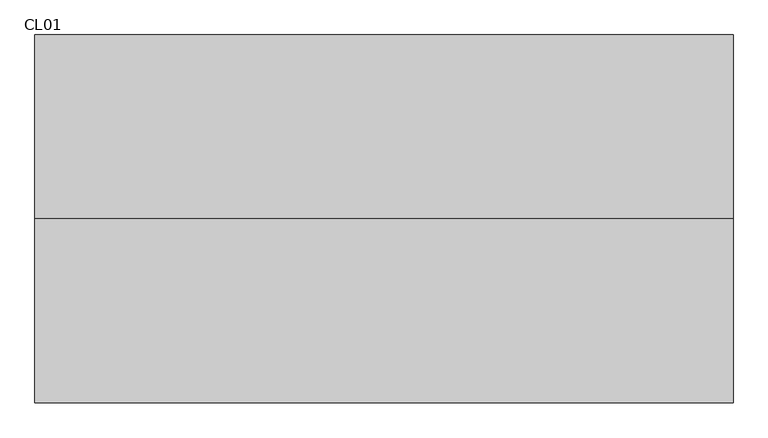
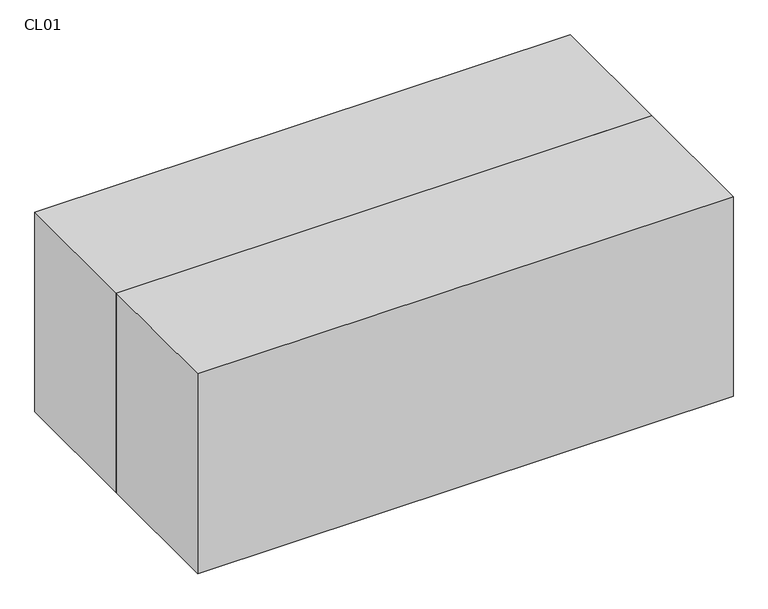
"""IFC4 building model written with IfcOpenShell, lengths in millimetres: proxy geometry, ARC_MDL_ME_Climatitzador 2P Mx1 r22 : CL01."""

import ifcopenshell
import ifcopenshell.guid

model = None  # the IFC model being written
_history = None  # IfcOwnerHistory: only IFC2X3 demands one
_inside = {}  # id of a spatial element -> (the spatial element, [elements in it])
_under = {}  # id of a project, library or spatial element -> (it, [spatial elements below it])
_declared = {}  # id of a project -> (the project, [libraries it declares])
_typed = {}  # id of a type object -> (the type object, [elements of that type])
_made_of = {}  # id of a material, layer set ... -> (it, [elements and type objects made of it])


def new_model(schema):
    """Start an empty IFC model of exactly this schema.

    Asked for "IFC4X3", IfcOpenShell would pick the latest addendum, in which some entities
    have other attributes; the version numbers below select the first issue.
    IFC2X3 requires an IfcOwnerHistory on every rooted entity: one is made here for all.
    """
    global model, _history
    if schema == "IFC4X3":
        model = ifcopenshell.file(schema_version=(4, 3, 0, 0))
    else:
        model = ifcopenshell.file(schema=schema)
    _inside.clear()
    _under.clear()
    _declared.clear()
    _typed.clear()
    _made_of.clear()
    _history = None
    if model.schema == "IFC2X3":
        org = make("IfcOrganization", Name="unknown")
        user = make(
            "IfcPersonAndOrganization",
            ThePerson=make("IfcPerson", FamilyName="unknown"),
            TheOrganization=org,
        )
        app = make(
            "IfcApplication",
            ApplicationDeveloper=org,
            Version="unknown",
            ApplicationFullName="unknown",
            ApplicationIdentifier="unknown",
        )
        _history = make(
            "IfcOwnerHistory",
            OwningUser=user,
            OwningApplication=app,
            ChangeAction="ADDED",
            CreationDate=0,
        )
    return model


def make(cls, **values):
    """One entity of the class cls with the attributes given. An attribute that is None is left unset."""
    return model.create_entity(
        cls, **{name: value for name, value in values.items() if value is not None}
    )


def rooted(cls, **values):
    """An entity with a GlobalId (a new one), such as an element, a storey or a relation."""
    return make(cls, GlobalId=ifcopenshell.guid.new(), OwnerHistory=_history, **values)


def si_unit(unit_type, name, prefix=None):
    """IfcSIUnit, for example si_unit("LENGTHUNIT", "METRE", prefix="MILLI")."""
    return make("IfcSIUnit", UnitType=unit_type, Prefix=prefix, Name=name)


def assignment(units):
    """IfcUnitAssignment: the units of a project."""
    return None if units is None else make("IfcUnitAssignment", Units=units)


def point(xyz):
    """IfcCartesianPoint."""
    return None if xyz is None else make("IfcCartesianPoint", Coordinates=xyz)


def direction(xyz):
    """IfcDirection."""
    return None if xyz is None else make("IfcDirection", DirectionRatios=xyz)


def frame(location, z_axis=None, x_axis=None):
    """IfcAxis2Placement3D, a coordinate frame: its origin and axes. An axis left out is left unset."""
    return make(
        "IfcAxis2Placement3D",
        Location=point(location),
        Axis=direction(z_axis),
        RefDirection=direction(x_axis),
    )


def origin():
    """The frame at (0, 0, 0) with its axes left unset."""
    return frame((0.0, 0.0, 0.0))


def origin_with_axes():
    """The frame at (0, 0, 0) with the z axis (0, 0, 1) and the x axis (1, 0, 0) written out."""
    return frame((0.0, 0.0, 0.0), z_axis=(0.0, 0.0, 1.0), x_axis=(1.0, 0.0, 0.0))


def place(relative_to, where):
    """IfcLocalPlacement: puts the frame where relative to a parent placement (None: the world)."""
    return make(
        "IfcLocalPlacement", PlacementRelTo=relative_to, RelativePlacement=where
    )


def context(
    kind, dimensions, precision=None, world=None, true_north=None, identifier=None
):
    """IfcGeometricRepresentationContext, for example the 3D "Model" context."""
    return make(
        "IfcGeometricRepresentationContext",
        ContextIdentifier=identifier,
        ContextType=kind,
        CoordinateSpaceDimension=dimensions,
        Precision=precision,
        WorldCoordinateSystem=world,
        TrueNorth=true_north,
    )


def project(units=None, contexts=None):
    """IfcProject with its units and contexts."""
    return rooted(
        "IfcProject",
        Name="project",
        RepresentationContexts=contexts,
        UnitsInContext=assignment(units),
    )


def spatial(cls, under=None, at=None, **own):
    """A site, building, storey or space (cls), placed at a placement, below another one or the project."""
    s = rooted(cls, ObjectPlacement=at, **own)
    if under is not None:
        _under.setdefault(under.id(), (under, []))[1].append(s)
    return s


def polyline(points):
    """IfcPolyline through the points."""
    return make("IfcPolyline", Points=[point(p) for p in points])


def outline(outer, holes=None, kind="AREA"):
    """IfcArbitraryClosedProfileDef: a profile drawn as a closed curve; with holes, ...WithVoids."""
    if holes is None:
        return make("IfcArbitraryClosedProfileDef", ProfileType=kind, OuterCurve=outer)
    return make(
        "IfcArbitraryProfileDefWithVoids",
        ProfileType=kind,
        OuterCurve=outer,
        InnerCurves=holes,
    )


def extrude(swept, where, along, depth):
    """IfcExtrudedAreaSolid: the profile swept, set in the frame where, extruded along a direction by depth."""
    return make(
        "IfcExtrudedAreaSolid",
        SweptArea=swept,
        Position=where,
        ExtrudedDirection=direction(along),
        Depth=depth,
    )


def shape(context_of_items, identifier, shape_type, items):
    """IfcShapeRepresentation: the items that make up one representation, for example the "Body"."""
    return make(
        "IfcShapeRepresentation",
        ContextOfItems=context_of_items,
        RepresentationIdentifier=identifier,
        RepresentationType=shape_type,
        Items=items,
    )


def source(mapping_origin, context_of_items, identifier, shape_type, items):
    """IfcRepresentationMap: a shape defined once, which mapped items show again and again."""
    return make(
        "IfcRepresentationMap",
        MappingOrigin=mapping_origin,
        MappedRepresentation=shape(context_of_items, identifier, shape_type, items),
    )


def transform(
    local_origin,
    x_axis=None,
    y_axis=None,
    z_axis=None,
    scale=None,
    scale2=None,
    scale3=None,
    uniform=True,
):
    """IfcCartesianTransformationOperator3D, or its non-uniform kind. x_axis, y_axis, z_axis: its Axis1, 2, 3."""
    if uniform:
        return make(
            "IfcCartesianTransformationOperator3D",
            Axis1=direction(x_axis),
            Axis2=direction(y_axis),
            LocalOrigin=point(local_origin),
            Scale=scale,
            Axis3=direction(z_axis),
        )
    return make(
        "IfcCartesianTransformationOperator3DnonUniform",
        Axis1=direction(x_axis),
        Axis2=direction(y_axis),
        LocalOrigin=point(local_origin),
        Scale=scale,
        Axis3=direction(z_axis),
        Scale2=scale2,
        Scale3=scale3,
    )


def mapped(mapping_source, mapping_target):
    """IfcMappedItem: shows the shape of a source again, moved by a transform."""
    return make(
        "IfcMappedItem", MappingSource=mapping_source, MappingTarget=mapping_target
    )


def made_of(thing, what):
    """Note that an element or type object is made of a material, layer set ...; save() writes the relation."""
    if what is not None:
        _made_of.setdefault(what.id(), (what, []))[1].append(thing)
    return thing


def element(
    cls,
    number,
    at=None,
    inside=None,
    cuts=None,
    type_object=None,
    material=None,
    context=None,
    identifier="Body",
    shape_type=None,
    held_by="IfcProductDefinitionShape",
    body=None,
    shapes=None,
    **own,
):
    """One element of the class cls, such as IfcWall. Its Tag is "e" and its number.

    at: its placement. inside: the storey or other place that contains it. cuts: it is an
    opening in that element (IfcRelVoidsElement). A single representation is given by context,
    identifier, shape_type and body (its items); several are given by shapes. held_by: the class
    of the entity that holds the representations. save() writes the other relations.
    """
    e = rooted(cls, Tag="e%d" % number, ObjectPlacement=at, **own)
    if body is not None:
        shapes = [shape(context, identifier, shape_type, body)]
    if shapes is not None:
        e.Representation = make(held_by, Representations=shapes)
    if inside is not None:
        _inside.setdefault(inside.id(), (inside, []))[1].append(e)
    if cuts is not None:
        rooted(
            "IfcRelVoidsElement", RelatingBuildingElement=cuts, RelatedOpeningElement=e
        )
    if type_object is not None:
        _typed.setdefault(type_object.id(), (type_object, []))[1].append(e)
    return made_of(e, material)


def aggregate(whole, parts):
    """IfcRelAggregates: a whole, such as a stair, and the parts it consists of."""
    return rooted("IfcRelAggregates", RelatingObject=whole, RelatedObjects=parts)


def save(model, path):
    """Write the relations noted so far, then the file.

    IfcRelAggregates (storeys below a building ...), IfcRelContainedInSpatialStructure (elements
    in a storey), IfcRelDefinesByType, IfcRelAssociatesMaterial and IfcRelDeclares: one each for
    every whole, place, type object, material and project.
    """
    for whole, parts in _under.values():
        aggregate(whole, parts)
    for where, things in _inside.values():
        rooted(
            "IfcRelContainedInSpatialStructure",
            RelatedElements=things,
            RelatingStructure=where,
        )
    for kind, things in _typed.values():
        rooted("IfcRelDefinesByType", RelatedObjects=things, RelatingType=kind)
    for what, things in _made_of.values():
        rooted("IfcRelAssociatesMaterial", RelatedObjects=things, RelatingMaterial=what)
    for by, libraries in _declared.values():
        rooted("IfcRelDeclares", RelatingContext=by, RelatedDefinitions=libraries)
    model.write(path)


def cl01_be410f6c(model_context):
    return source(origin(), model_context, "Body", "SweptSolid", [
        extrude(outline(polyline([(1815.5, -478.0), (1815.5, -1434.0), (-1815.5, -1434.0), (-1815.5, -478.0), (1815.5, -478.0)])), origin_with_axes(), (0.0, 0.0, 1.0), 1432.0),
        extrude(outline(polyline([(1815.5, 478.0), (1815.5, -478.0), (-1815.5, -478.0), (-1815.5, 478.0), (1815.5, 478.0)])), origin_with_axes(), (0.0, 0.0, 1.0), 1432.0),
    ])


if __name__ == "__main__":
    model = new_model("IFC4")
    model_context = context("Model", 3, world=origin())
    ifc_project = project(units=[si_unit("LENGTHUNIT", "METRE", prefix="MILLI")], contexts=[model_context])
    site = spatial("IfcSite", under=ifc_project)
    building = spatial("IfcBuilding", under=site)
    placement = place(None, origin())
    cl01_shape = cl01_be410f6c(model_context)
    element("IfcBuildingElementProxy", 1, Name="ARC_MDL_ME_Climatitzador 2P Mx1 r22 : CL01", ObjectType="ARC_MDL_ME_Climatitzador 2P Mx1 r22 : CL01", at=placement, inside=building, context=model_context, shape_type="MappedRepresentation", body=[
        mapped(cl01_shape, transform((0.0, 0.0, 0.0), x_axis=(1.0, 0.0, 0.0), y_axis=(0.0, 1.0, 0.0), z_axis=(0.0, 0.0, 1.0))),
    ])
    save(model, "model.ifc")
